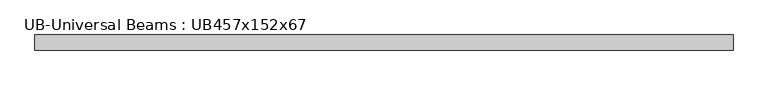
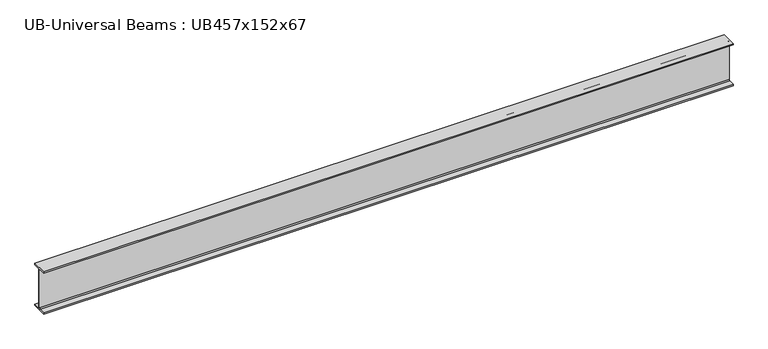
"""IFC4 building model written with IfcOpenShell, lengths in millimetres: beam geometry, UB-Universal Beams : UB457x152x67."""

from ifc_helpers import new_model, si_unit, point, frame, frame_2d, origin, place, context, project, spatial, polyline, circle_curve, trimmed, segment, composite_curve, outline, extrude, source, transform, mapped, element, save


def ub_universal_beams_ub457x152x67_feb0265b(model_context):
    return source(origin(), model_context, "Body", "SweptSolid", [
        extrude(outline(composite_curve([segment(polyline([(76.9, -214.0), (76.9, -229.0), (-76.9, -229.0), (-76.9, -214.0), (-14.7, -214.0)]), True, "CONTINUOUS"), segment(trimmed(circle_curve(frame_2d((-14.7, -203.8)), 10.2), [point((-14.7, -214.0))], [point((-4.5, -203.8))], True, "CARTESIAN"), True, "CONTINUOUS"), segment(polyline([(-4.5, -203.8), (-4.5, 203.8)]), True, "CONTINUOUS"), segment(trimmed(circle_curve(frame_2d((-14.7, 203.8)), 10.2), [point((-4.5, 203.8))], [point((-14.7, 214.0))], True, "CARTESIAN"), True, "CONTINUOUS"), segment(polyline([(-14.7, 214.0), (-76.9, 214.0), (-76.9, 229.0), (76.9, 229.0), (76.9, 214.0), (14.7, 214.0)]), True, "CONTINUOUS"), segment(trimmed(circle_curve(frame_2d((14.7, 203.8)), 10.2), [point((14.7, 214.0))], [point((4.5, 203.8))], True, "CARTESIAN"), True, "CONTINUOUS"), segment(polyline([(4.5, 203.8), (4.5, -203.8)]), True, "CONTINUOUS"), segment(trimmed(circle_curve(frame_2d((14.7, -203.8)), 10.2), [point((4.5, -203.8))], [point((14.7, -214.0))], True, "CARTESIAN"), True, "CONTINUOUS"), segment(polyline([(14.7, -214.0), (76.9, -214.0)]), True, "CONTINUOUS")], self_intersect=False)), frame((-3596.3, 0.0, 0.0), z_axis=(1.0, 0.0, 0.0), x_axis=(0.0, 1.0, 0.0)), (0.0, 0.0, 1.0), 7079.9),
    ])


if __name__ == "__main__":
    model = new_model("IFC4")
    model_context = context("Model", 3, world=origin())
    ifc_project = project(units=[si_unit("LENGTHUNIT", "METRE", prefix="MILLI")], contexts=[model_context])
    site = spatial("IfcSite", under=ifc_project)
    building = spatial("IfcBuilding", under=site)
    placement = place(None, origin())
    ub_universal_beams_ub457x152x67_shape = ub_universal_beams_ub457x152x67_feb0265b(model_context)
    element("IfcBeam", 1, ObjectType="UB-Universal Beams : UB457x152x67", at=placement, inside=building, context=model_context, shape_type="MappedRepresentation", body=[
        mapped(ub_universal_beams_ub457x152x67_shape, transform((0.0, 0.0, 0.0), x_axis=(1.0, 0.0, 0.0), y_axis=(0.0, 1.0, 0.0), z_axis=(0.0, 0.0, 1.0))),
    ])
    save(model, "model.ifc")
